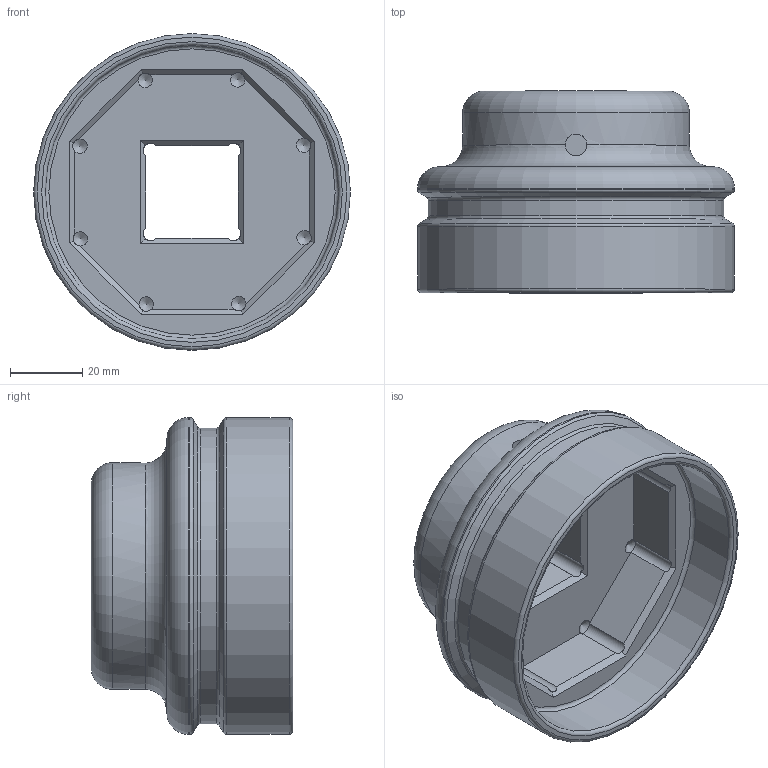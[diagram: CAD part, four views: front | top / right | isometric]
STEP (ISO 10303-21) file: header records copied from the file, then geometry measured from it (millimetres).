
FILE_DESCRIPTION(/* description */ ('Alibre Inc.'),/* implementation_level */ '2;1');
FILE_NAME(/* name */ 'export0',/* time_stamp */ '2010-05-29T09:14:08+02:00',/* author */ (''),/* organization */ (''),/* preprocessor_version */ 'ST-DEVELOPER v10',/* originating_system */ 'Alibre',/* authorisation */ '');
FILE_SCHEMA (('ALIBRE_SCHEMA','CONFIG_CONTROL_DESIGN'));
Length unit declared in the file: centimetre
Products named in the file (1): ID_1
Bounding box: 88 x 56 x 88 mm (x, y, z)
Volume: 121041.8 mm3; surface area: 33122.6 mm2
Topology: 1 solids, 1 shells, 71 faces, 194 edges, 119 vertices
Faces by surface type: plane 33, cylinder 18, torus 10, cone 10
Full cylindrical faces by diameter (mm): 6 x1, 63 x1, 81.5 x1, 82 x1, 88 x2
Entity records: 11730 total; most frequent: CARTESIAN_POINT 3347, DIRECTION 904, VECTOR 629, LINE 542, PROJECTEDSEGMENT 513, PROJECTEDEDGE 483, REFERENCEDEPENDENTUV 433, CONSTRAINTPAIRUV 401
